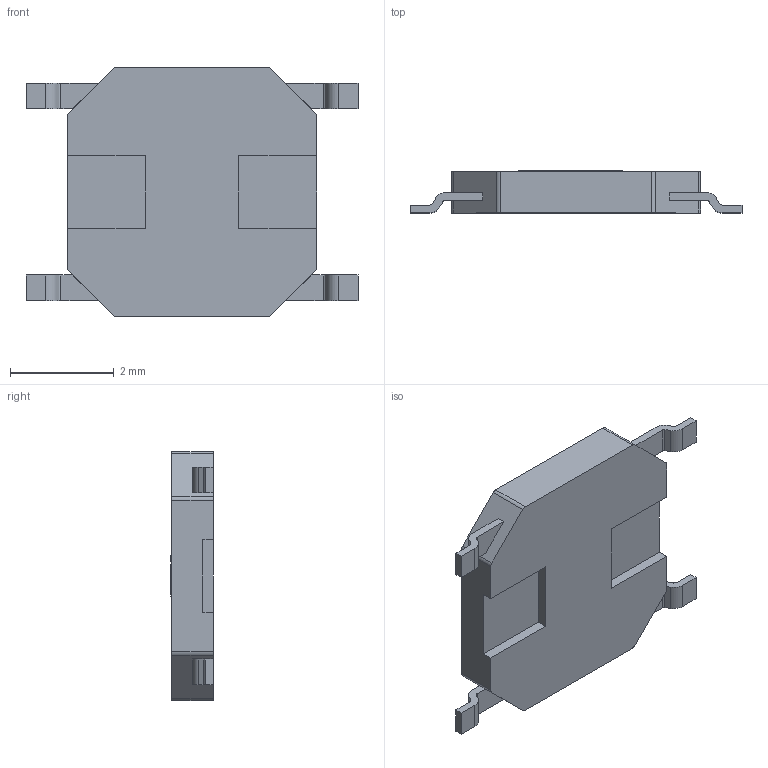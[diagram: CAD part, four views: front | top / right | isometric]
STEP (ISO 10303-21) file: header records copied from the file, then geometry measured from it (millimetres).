
FILE_DESCRIPTION((''),'2;1');
FILE_NAME('ASM0001_ASM','2024-01-07T',('WYH'),(''),'PRO/ENGINEER BY PARAMETRIC TECHNOLOGY CORPORATION, 2013040','PRO/ENGINEER BY PARAMETRIC TECHNOLOGY CORPORATION, 2013040','');
FILE_SCHEMA(('CONFIG_CONTROL_DESIGN'));
Length unit declared in the file: millimetre
Products named in the file (1): ASM0001_ASM
Bounding box: 6.4 x 0.82 x 4.8 mm (x, y, z)
Volume: 16.7 mm3; surface area: 64.4 mm2
Topology: 1 solids, 1 shells, 135 faces, 372 edges, 248 vertices
Faces by surface type: plane 101, cylinder 34
Entity records: 4312 total; most frequent: CARTESIAN_POINT 755, ORIENTED_EDGE 744, DIRECTION 710, EDGE_CURVE 372, VECTOR 304, LINE 304, VERTEX_POINT 248, AXIS2_PLACEMENT_3D 203
